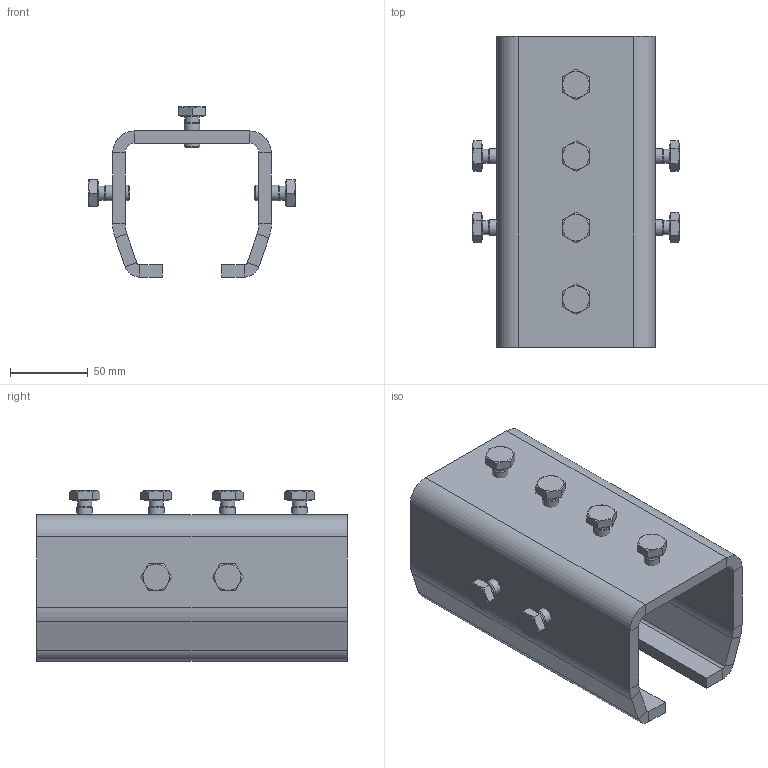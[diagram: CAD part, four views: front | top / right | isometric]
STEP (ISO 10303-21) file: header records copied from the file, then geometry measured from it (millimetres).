
FILE_DESCRIPTION(/* description */ ('Muffe Nr.4_lang '),/* implementation_level */ '2;1');
FILE_NAME(/* name */ 'Q:\sge-ma\Produktmanagement-STB\STB\Workspace\stp\010335140.stp',/* time_stamp */ '2016-07-13T12:59:24+02:00',/* author */ ('avschreier'),/* organization */ (''),/* preprocessor_version */ 'ST-DEVELOPER v16.1',/* originating_system */ 'Autodesk Inventor 2016',/* authorisation */ '');
FILE_SCHEMA (('AUTOMOTIVE_DESIGN { 1 0 10303 214 3 1 1 }'));
Length unit declared in the file: millimetre
Products named in the file (3): 337000132; DIN_EN_ISO_4017-M10x20_en; 010335140
Assembly tree (9 placements, depth 2):
  010335140
    337000132
    DIN_EN_ISO_4017-M10x20_en  x8
Bounding box: 132.96 x 200 x 109.48 mm (x, y, z)
Volume: 494433.7 mm3; surface area: 138886.8 mm2
Topology: 9 solids, 9 shells, 230 faces, 476 edges, 280 vertices
Faces by surface type: plane 122, cone 64, cylinder 44
Full cylindrical faces by diameter (mm): 8.376 x8, 9.188 x8, 10 x8, 15.4 x8
Entity records: 2228 total; most frequent: DIRECTION 392, CARTESIAN_POINT 377, ORIENTED_EDGE 322, EDGE_CURVE 161, AXIS2_PLACEMENT_3D 148, EDGE_LOOP 114, VERTEX_POINT 97, LINE 96
